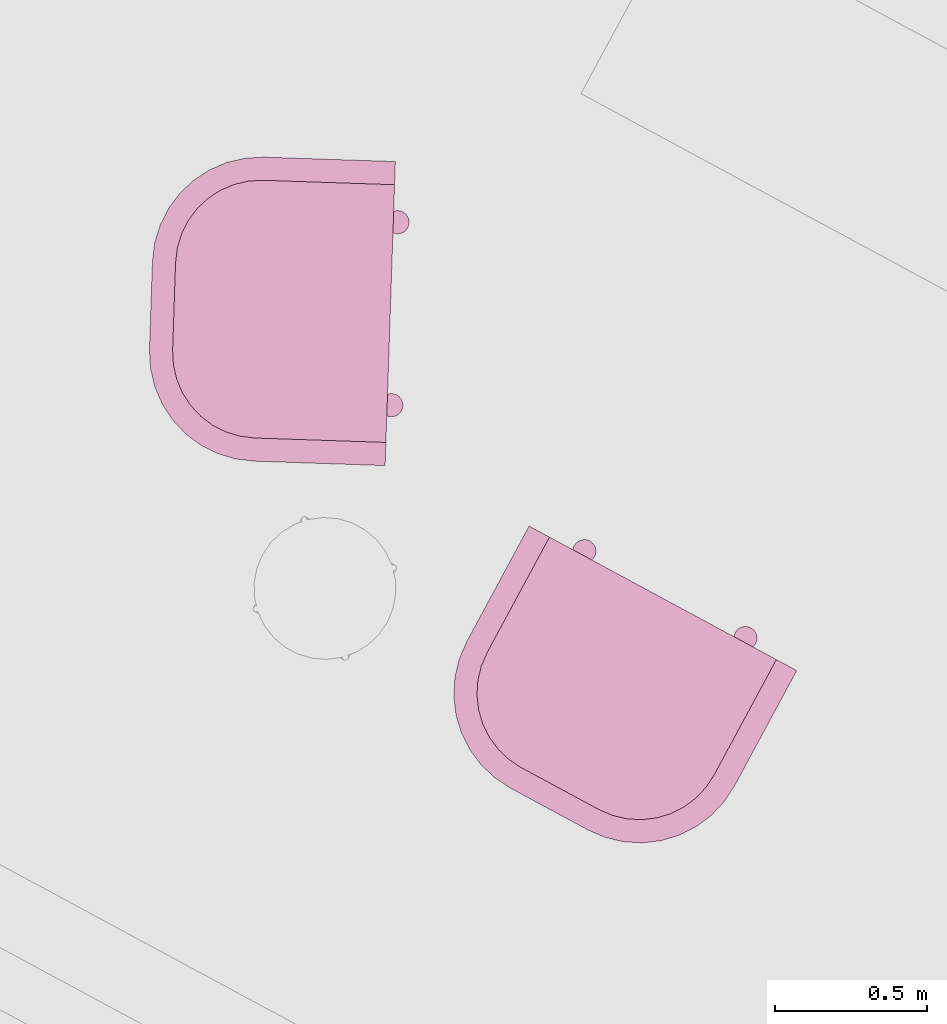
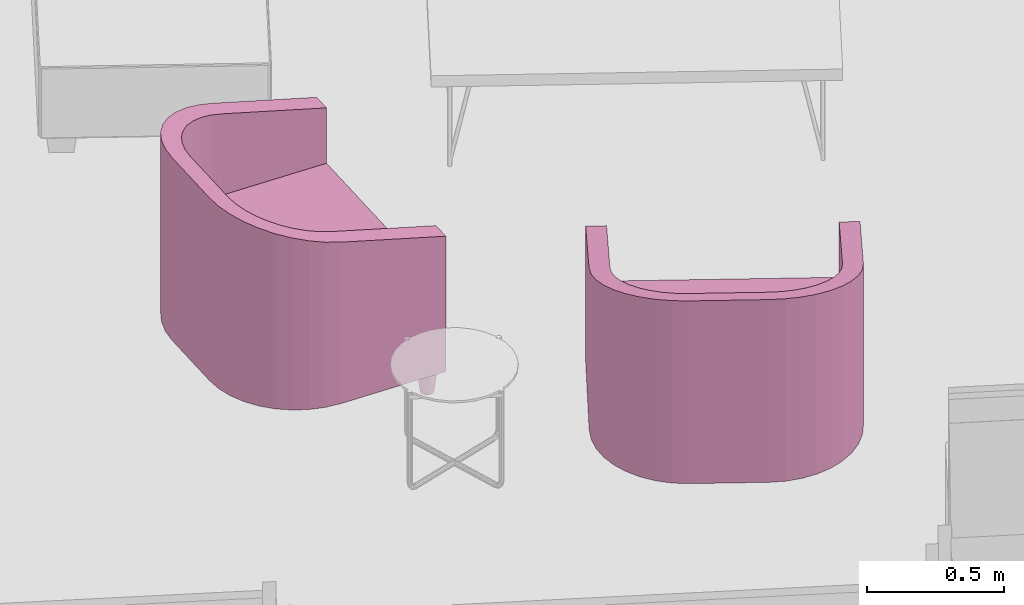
# One storey, part 27 of 52: 2 furnishings.
"""IFC2X3 building model written with IfcOpenShell, lengths in metres."""

import ifcopenshell
import ifcopenshell.guid

model = None  # the IFC model being written
_history = None  # IfcOwnerHistory: only IFC2X3 demands one
_inside = {}  # id of a spatial element -> (the spatial element, [elements in it])
_under = {}  # id of a project, library or spatial element -> (it, [spatial elements below it])
_declared = {}  # id of a project -> (the project, [libraries it declares])
_typed = {}  # id of a type object -> (the type object, [elements of that type])
_made_of = {}  # id of a material, layer set ... -> (it, [elements and type objects made of it])


def new_model(schema):
    """Start an empty IFC model of exactly this schema.

    Asked for "IFC4X3", IfcOpenShell would pick the latest addendum, in which some entities
    have other attributes; the version numbers below select the first issue.
    IFC2X3 requires an IfcOwnerHistory on every rooted entity: one is made here for all.
    """
    global model, _history
    if schema == "IFC4X3":
        model = ifcopenshell.file(schema_version=(4, 3, 0, 0))
    else:
        model = ifcopenshell.file(schema=schema)
    _inside.clear()
    _under.clear()
    _declared.clear()
    _typed.clear()
    _made_of.clear()
    _history = None
    if model.schema == "IFC2X3":
        org = make("IfcOrganization", Name="unknown")
        user = make(
            "IfcPersonAndOrganization",
            ThePerson=make("IfcPerson", FamilyName="unknown"),
            TheOrganization=org,
        )
        app = make(
            "IfcApplication",
            ApplicationDeveloper=org,
            Version="unknown",
            ApplicationFullName="unknown",
            ApplicationIdentifier="unknown",
        )
        _history = make(
            "IfcOwnerHistory",
            OwningUser=user,
            OwningApplication=app,
            ChangeAction="ADDED",
            CreationDate=0,
        )
    return model


def make(cls, **values):
    """One entity of the class cls with the attributes given. An attribute that is None is left unset."""
    return model.create_entity(
        cls, **{name: value for name, value in values.items() if value is not None}
    )


def entity(cls, *values):
    """Any entity or typed value of the class cls, its attributes in the order of the schema. None: left unset."""
    e = model.create_entity(cls)
    for i, value in enumerate(values):
        if value is not None:
            e[i] = value
    return e


def rooted(cls, **values):
    """An entity with a GlobalId (a new one), such as an element, a storey or a relation."""
    return make(cls, GlobalId=ifcopenshell.guid.new(), OwnerHistory=_history, **values)


def si_unit(unit_type, name, prefix=None):
    """IfcSIUnit, for example si_unit("LENGTHUNIT", "METRE", prefix="MILLI")."""
    return make("IfcSIUnit", UnitType=unit_type, Prefix=prefix, Name=name)


def converted_unit(unit_type, name, factor, base, dimensions=None, offset=None):
    """IfcConversionBasedUnit, such as the inch: factor (a typed value) times the base unit."""
    return make(
        "IfcConversionBasedUnit"
        if offset is None
        else "IfcConversionBasedUnitWithOffset",
        ConversionOffset=offset,
        Dimensions=None
        if dimensions is None
        else entity("IfcDimensionalExponents", *dimensions),
        UnitType=unit_type,
        Name=name,
        ConversionFactor=make(
            "IfcMeasureWithUnit", ValueComponent=factor, UnitComponent=base
        ),
    )


def derived_unit(unit_type, elements):
    """IfcDerivedUnit: a product of units, each with its exponent."""
    return make(
        "IfcDerivedUnit",
        Elements=[
            make("IfcDerivedUnitElement", Unit=unit, Exponent=power)
            for unit, power in elements
        ],
        UnitType=unit_type,
    )


def money_unit(currency):
    """IfcMonetaryUnit."""
    return make("IfcMonetaryUnit", Currency=currency)


def assignment(units):
    """IfcUnitAssignment: the units of a project."""
    return None if units is None else make("IfcUnitAssignment", Units=units)


def point(xyz):
    """IfcCartesianPoint."""
    return None if xyz is None else make("IfcCartesianPoint", Coordinates=xyz)


def direction(xyz):
    """IfcDirection."""
    return None if xyz is None else make("IfcDirection", DirectionRatios=xyz)


def frame(location, z_axis=None, x_axis=None):
    """IfcAxis2Placement3D, a coordinate frame: its origin and axes. An axis left out is left unset."""
    return make(
        "IfcAxis2Placement3D",
        Location=point(location),
        Axis=direction(z_axis),
        RefDirection=direction(x_axis),
    )


def origin_with_axes():
    """The frame at (0, 0, 0) with the z axis (0, 0, 1) and the x axis (1, 0, 0) written out."""
    return frame((0.0, 0.0, 0.0), z_axis=(0.0, 0.0, 1.0), x_axis=(1.0, 0.0, 0.0))


def place(relative_to, where):
    """IfcLocalPlacement: puts the frame where relative to a parent placement (None: the world)."""
    return make(
        "IfcLocalPlacement", PlacementRelTo=relative_to, RelativePlacement=where
    )


def context(
    kind, dimensions, precision=None, world=None, true_north=None, identifier=None
):
    """IfcGeometricRepresentationContext, for example the 3D "Model" context."""
    return make(
        "IfcGeometricRepresentationContext",
        ContextIdentifier=identifier,
        ContextType=kind,
        CoordinateSpaceDimension=dimensions,
        Precision=precision,
        WorldCoordinateSystem=world,
        TrueNorth=true_north,
    )


def subcontext(parent, identifier, kind, view, scale=None):
    """IfcGeometricRepresentationSubContext, for example "Body" below "Model"."""
    return make(
        "IfcGeometricRepresentationSubContext",
        ContextIdentifier=identifier,
        ContextType=kind,
        ParentContext=parent,
        TargetScale=scale,
        TargetView=view,
    )


def project(units=None, contexts=None):
    """IfcProject with its units and contexts."""
    return rooted(
        "IfcProject",
        Name="project",
        RepresentationContexts=contexts,
        UnitsInContext=assignment(units),
    )


def spatial(cls, under=None, at=None, **own):
    """A site, building, storey or space (cls), placed at a placement, below another one or the project."""
    s = rooted(cls, ObjectPlacement=at, **own)
    if under is not None:
        _under.setdefault(under.id(), (under, []))[1].append(s)
    return s


def faces_of(points, faces, orient=None, outer=None):
    """IfcFace entities. A face is a list of loops; a loop is a list of indices into points, from 0.

    orient and outer hold one flag for each loop. By default every Orientation is true, the
    first loop of a face is its IfcFaceOuterBound and the others are IfcFaceBound.
    """
    made = []
    for i, loops in enumerate(faces):
        bounds = []
        for j, loop in enumerate(loops):
            is_outer = j == 0 if outer is None else outer[i][j]
            bounds.append(
                make(
                    "IfcFaceOuterBound" if is_outer else "IfcFaceBound",
                    Bound=make("IfcPolyLoop", Polygon=[points[k] for k in loop]),
                    Orientation=True if orient is None else orient[i][j],
                )
            )
        made.append(make("IfcFace", Bounds=bounds))
    return made


def faceted_brep(points, faces, orient=None, outer=None, voids=None):
    """IfcFacetedBrep: a solid bounded by flat faces; with voids (closed shells), ...WithVoids."""
    shared = [point(p) for p in points]
    hull = make("IfcClosedShell", CfsFaces=faces_of(shared, faces, orient, outer))
    if voids is None:
        return make("IfcFacetedBrep", Outer=hull)
    return make(
        "IfcFacetedBrepWithVoids",
        Outer=hull,
        Voids=[
            make(cls, CfsFaces=faces_of(shared, fs, o, b)) for cls, fs, o, b in voids
        ],
    )


def shape(context_of_items, identifier, shape_type, items):
    """IfcShapeRepresentation: the items that make up one representation, for example the "Body"."""
    return make(
        "IfcShapeRepresentation",
        ContextOfItems=context_of_items,
        RepresentationIdentifier=identifier,
        RepresentationType=shape_type,
        Items=items,
    )


def source(mapping_origin, context_of_items, identifier, shape_type, items):
    """IfcRepresentationMap: a shape defined once, which mapped items show again and again."""
    return make(
        "IfcRepresentationMap",
        MappingOrigin=mapping_origin,
        MappedRepresentation=shape(context_of_items, identifier, shape_type, items),
    )


def transform(
    local_origin,
    x_axis=None,
    y_axis=None,
    z_axis=None,
    scale=None,
    scale2=None,
    scale3=None,
    uniform=True,
):
    """IfcCartesianTransformationOperator3D, or its non-uniform kind. x_axis, y_axis, z_axis: its Axis1, 2, 3."""
    if uniform:
        return make(
            "IfcCartesianTransformationOperator3D",
            Axis1=direction(x_axis),
            Axis2=direction(y_axis),
            LocalOrigin=point(local_origin),
            Scale=scale,
            Axis3=direction(z_axis),
        )
    return make(
        "IfcCartesianTransformationOperator3DnonUniform",
        Axis1=direction(x_axis),
        Axis2=direction(y_axis),
        LocalOrigin=point(local_origin),
        Scale=scale,
        Axis3=direction(z_axis),
        Scale2=scale2,
        Scale3=scale3,
    )


def mapped(mapping_source, mapping_target):
    """IfcMappedItem: shows the shape of a source again, moved by a transform."""
    return make(
        "IfcMappedItem", MappingSource=mapping_source, MappingTarget=mapping_target
    )


def made_of(thing, what):
    """Note that an element or type object is made of a material, layer set ...; save() writes the relation."""
    if what is not None:
        _made_of.setdefault(what.id(), (what, []))[1].append(thing)
    return thing


def type_object(cls, material=None, **own):
    """A type object (cls), such as IfcWallType, which elements share."""
    return made_of(rooted(cls, **own), material)


def element(
    cls,
    number,
    at=None,
    inside=None,
    cuts=None,
    type_object=None,
    material=None,
    context=None,
    identifier="Body",
    shape_type=None,
    held_by="IfcProductDefinitionShape",
    body=None,
    shapes=None,
    **own,
):
    """One element of the class cls, such as IfcWall. Its Tag is "e" and its number.

    at: its placement. inside: the storey or other place that contains it. cuts: it is an
    opening in that element (IfcRelVoidsElement). A single representation is given by context,
    identifier, shape_type and body (its items); several are given by shapes. held_by: the class
    of the entity that holds the representations. save() writes the other relations.
    """
    e = rooted(cls, Tag="e%d" % number, ObjectPlacement=at, **own)
    if body is not None:
        shapes = [shape(context, identifier, shape_type, body)]
    if shapes is not None:
        e.Representation = make(held_by, Representations=shapes)
    if inside is not None:
        _inside.setdefault(inside.id(), (inside, []))[1].append(e)
    if cuts is not None:
        rooted(
            "IfcRelVoidsElement", RelatingBuildingElement=cuts, RelatedOpeningElement=e
        )
    if type_object is not None:
        _typed.setdefault(type_object.id(), (type_object, []))[1].append(e)
    return made_of(e, material)


def aggregate(whole, parts):
    """IfcRelAggregates: a whole, such as a stair, and the parts it consists of."""
    return rooted("IfcRelAggregates", RelatingObject=whole, RelatedObjects=parts)


def save(model, path):
    """Write the relations noted so far, then the file.

    IfcRelAggregates (storeys below a building ...), IfcRelContainedInSpatialStructure (elements
    in a storey), IfcRelDefinesByType, IfcRelAssociatesMaterial and IfcRelDeclares: one each for
    every whole, place, type object, material and project.
    """
    for whole, parts in _under.values():
        aggregate(whole, parts)
    for where, things in _inside.values():
        rooted(
            "IfcRelContainedInSpatialStructure",
            RelatedElements=things,
            RelatingStructure=where,
        )
    for kind, things in _typed.values():
        rooted("IfcRelDefinesByType", RelatedObjects=things, RelatingType=kind)
    for what, things in _made_of.values():
        rooted("IfcRelAssociatesMaterial", RelatedObjects=things, RelatingMaterial=what)
    for by, libraries in _declared.values():
        rooted("IfcRelDeclares", RelatingContext=by, RelatedDefinitions=libraries)
    model.write(path)


model = new_model("IFC2X3")

# Units and contexts
model_context = context("Model", 3, precision=1e-05, world=origin_with_axes(), true_north=direction((0.0, 1.0)))
body_context = subcontext(model_context, "Body", "Model", "MODEL_VIEW")
ifc_project = project(units=[si_unit("LENGTHUNIT", "METRE"), si_unit("AREAUNIT", "SQUARE_METRE"), si_unit("VOLUMEUNIT", "CUBIC_METRE"), converted_unit("PLANEANGLEUNIT", "DEGREE", entity("IfcPlaneAngleMeasure", 0.0174532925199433), si_unit("PLANEANGLEUNIT", "RADIAN"), dimensions=[0, 0, 0, 0, 0, 0, 0]), money_unit("EUR"), converted_unit("TIMEUNIT", "Year", entity("IfcTimeMeasure", 31556926.0), si_unit("TIMEUNIT", "SECOND"), dimensions=[0, 0, 1, 0, 0, 0, 0]), si_unit("MASSUNIT", "GRAM", prefix="KILO"), si_unit("THERMODYNAMICTEMPERATUREUNIT", "DEGREE_CELSIUS"), si_unit("LUMINOUSINTENSITYUNIT", "LUMEN"), si_unit("ENERGYUNIT", "JOULE", prefix="MEGA"), derived_unit("THERMALCONDUCTANCEUNIT", [(si_unit("POWERUNIT", "WATT"), 1), (si_unit("LENGTHUNIT", "METRE"), -1), (si_unit("THERMODYNAMICTEMPERATUREUNIT", "KELVIN"), -1)]), derived_unit("SPECIFICHEATCAPACITYUNIT", [(si_unit("ENERGYUNIT", "JOULE"), 1), (si_unit("MASSUNIT", "GRAM", prefix="KILO"), -1), (si_unit("THERMODYNAMICTEMPERATUREUNIT", "KELVIN"), -1)]), derived_unit("MASSDENSITYUNIT", [(si_unit("MASSUNIT", "GRAM", prefix="KILO"), 1), (si_unit("VOLUMEUNIT", "CUBIC_METRE"), -1)])], contexts=[model_context])

# Site, building, storey
site_placement = place(None, frame((-3.949935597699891, 1.740105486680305, 0.0), z_axis=(0.0, 0.0, 1.0), x_axis=(0.8799804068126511, -0.475009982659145, 0.0)))
site = spatial("IfcSite", under=ifc_project, at=site_placement, Name="Gelände", CompositionType="ELEMENT")
building_placement = place(site_placement, origin_with_axes())
building = spatial("IfcBuilding", under=site, at=building_placement, Name="Gebäude", CompositionType="ELEMENT")
storey_placement = place(building_placement, origin_with_axes())
storey = spatial("IfcBuildingStorey", under=building, at=storey_placement, Name="Erdgeschoss", CompositionType="ELEMENT", Elevation=0.0)

# Furnishings
furnishing_element_type = type_object("IfcFurnishingElementType", Name="bucket chair (1)")
shared_shape = source(origin_with_axes(), body_context, "Body", "Brep", [
    faceted_brep([(-0.47421411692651, 0.73188933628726, 0.0), (-0.4867211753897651, 0.72968400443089, 0.1016), (-0.4873, 0.7363000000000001, 0.1016), (-0.4746, 0.7363000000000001, 0.0), (-0.473068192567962, 0.7276126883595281, 0.0), (-0.485002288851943, 0.7232690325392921, 0.1016), (-0.482195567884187, 0.71725, 0.1016), (-0.478386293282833, 0.711809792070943, 0.1016), (-0.4736902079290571, 0.707113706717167, 0.1016), (-0.4682499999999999, 0.7033044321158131, 0.1016), (-0.462230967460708, 0.700497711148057, 0.1016), (-0.45581599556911, 0.698778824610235, 0.1016), (-0.4492, 0.6982000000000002, 0.1016), (-0.44258400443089, 0.698778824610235, 0.1016), (-0.436169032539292, 0.700497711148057, 0.1016), (-0.43015, 0.703304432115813, 0.1016), (-0.4247097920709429, 0.707113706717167, 0.1016), (-0.420013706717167, 0.711809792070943, 0.1016), (-0.4162044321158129, 0.71725, 0.1016), (-0.4133977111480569, 0.7232690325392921, 0.1016), (-0.4116788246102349, 0.72968400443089, 0.1016), (-0.4111, 0.7363000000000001, 0.1016), (-0.4116788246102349, 0.7429159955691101, 0.1016), (-0.4133977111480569, 0.749330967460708, 0.1016), (-0.4162044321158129, 0.7553500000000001, 0.1016), (-0.420013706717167, 0.7607902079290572, 0.1016), (-0.4247097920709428, 0.7654862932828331, 0.1016), (-0.43015, 0.7692955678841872, 0.1016), (-0.436169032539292, 0.7721022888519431, 0.1016), (-0.44258400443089, 0.7738211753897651, 0.1016), (-0.4492, 0.7744000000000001, 0.1016), (-0.45581599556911, 0.7738211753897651, 0.1016), (-0.462230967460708, 0.7721022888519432, 0.1016), (-0.46825, 0.7692955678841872, 0.1016), (-0.4736902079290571, 0.7654862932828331, 0.1016), (-0.4783862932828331, 0.7607902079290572, 0.1016), (-0.4821955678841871, 0.7553500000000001, 0.1016), (-0.4850022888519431, 0.749330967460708, 0.1016), (-0.4867211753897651, 0.7429159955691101, 0.1016), (-0.4742141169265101, 0.7407106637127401, 0.0), (-0.4730681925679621, 0.744987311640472, 0.0), (-0.4711970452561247, 0.7490000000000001, 0.0), (-0.468657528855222, 0.7526268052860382, 0.0), (-0.4655268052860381, 0.7557575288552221, 0.0), (-0.4619, 0.7582970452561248, 0.0), (-0.457887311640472, 0.7601681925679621, 0.0), (-0.45361066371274, 0.7613141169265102, 0.0), (-0.4492, 0.7617, 0.0), (-0.44478933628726, 0.7613141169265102, 0.0), (-0.440512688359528, 0.7601681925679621, 0.0), (-0.4365, 0.7582970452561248, 0.0), (-0.4328731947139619, 0.7557575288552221, 0.0), (-0.429742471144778, 0.7526268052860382, 0.0), (-0.4272029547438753, 0.7490000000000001, 0.0), (-0.4253318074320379, 0.744987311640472, 0.0), (-0.4241858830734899, 0.7407106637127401, 0.0), (-0.4238, 0.7363000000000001, 0.0), (-0.4241858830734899, 0.73188933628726, 0.0), (-0.4253318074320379, 0.7276126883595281, 0.0), (-0.4272029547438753, 0.7236000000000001, 0.0), (-0.429742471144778, 0.719973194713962, 0.0), (-0.4328731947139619, 0.7168424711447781, 0.0), (-0.4365, 0.7143029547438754, 0.0), (-0.440512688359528, 0.712431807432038, 0.0), (-0.44478933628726, 0.71128588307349, 0.0), (-0.4492, 0.7109000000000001, 0.0), (-0.45361066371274, 0.71128588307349, 0.0), (-0.457887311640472, 0.712431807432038, 0.0), (-0.4619, 0.7143029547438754, 0.0), (-0.4655268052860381, 0.7168424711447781, 0.0), (-0.468657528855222, 0.719973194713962, 0.0), (-0.4711970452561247, 0.7236000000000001, 0.0)], [[[0, 1, 2, 3]], [[4, 5, 1, 0]], [[1, 5, 6, 7, 8, 9, 10, 11, 12, 13, 14, 15, 16, 17, 18, 19, 20, 21, 22, 23, 24, 25, 26, 27, 28, 29, 30, 31, 32, 33, 34, 35, 36, 37, 38, 2]], [[3, 2, 38, 39]], [[0, 3, 39, 40, 41, 42, 43, 44, 45, 46, 47, 48, 49, 50, 51, 52, 53, 54, 55, 56, 57, 58, 59, 60, 61, 62, 63, 64, 65, 66, 67, 68, 69, 70, 71, 4]], [[71, 6, 5, 4]], [[70, 7, 6, 71]], [[69, 8, 7, 70]], [[68, 9, 8, 69]], [[67, 10, 9, 68]], [[66, 11, 10, 67]], [[65, 12, 11, 66]], [[64, 13, 12, 65]], [[63, 14, 13, 64]], [[62, 15, 14, 63]], [[61, 16, 15, 62]], [[60, 17, 16, 61]], [[59, 18, 17, 60]], [[58, 19, 18, 59]], [[57, 20, 19, 58]], [[56, 21, 20, 57]], [[55, 22, 21, 56]], [[54, 23, 22, 55]], [[53, 24, 23, 54]], [[52, 25, 24, 53]], [[51, 26, 25, 52]], [[50, 27, 26, 51]], [[49, 28, 27, 50]], [[48, 29, 28, 49]], [[47, 30, 29, 48]], [[46, 31, 30, 47]], [[45, 32, 31, 46]], [[44, 33, 32, 45]], [[43, 34, 33, 44]], [[42, 35, 34, 43]], [[41, 36, 35, 42]], [[40, 37, 36, 41]], [[39, 38, 37, 40]]]),
    faceted_brep([(0.42418588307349, 0.73188933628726, 0.0), (0.4116788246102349, 0.72968400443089, 0.1016), (0.4111, 0.7363000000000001, 0.1016), (0.4238, 0.7363000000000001, 0.0), (0.425331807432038, 0.7276126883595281, 0.0), (0.413397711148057, 0.7232690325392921, 0.1016), (0.4162044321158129, 0.71725, 0.1016), (0.420013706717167, 0.711809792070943, 0.1016), (0.4247097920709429, 0.707113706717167, 0.1016), (0.43015, 0.7033044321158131, 0.1016), (0.436169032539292, 0.700497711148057, 0.1016), (0.44258400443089, 0.698778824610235, 0.1016), (0.4492, 0.6982000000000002, 0.1016), (0.45581599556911, 0.698778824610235, 0.1016), (0.462230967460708, 0.700497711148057, 0.1016), (0.4682499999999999, 0.703304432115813, 0.1016), (0.4736902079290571, 0.707113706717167, 0.1016), (0.478386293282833, 0.711809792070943, 0.1016), (0.482195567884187, 0.71725, 0.1016), (0.4850022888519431, 0.7232690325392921, 0.1016), (0.4867211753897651, 0.72968400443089, 0.1016), (0.4873, 0.7363000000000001, 0.1016), (0.4867211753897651, 0.7429159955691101, 0.1016), (0.4850022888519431, 0.749330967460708, 0.1016), (0.482195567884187, 0.7553500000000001, 0.1016), (0.478386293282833, 0.7607902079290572, 0.1016), (0.4736902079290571, 0.7654862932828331, 0.1016), (0.4682499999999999, 0.7692955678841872, 0.1016), (0.462230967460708, 0.7721022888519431, 0.1016), (0.45581599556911, 0.7738211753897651, 0.1016), (0.4492, 0.7744000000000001, 0.1016), (0.44258400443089, 0.7738211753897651, 0.1016), (0.436169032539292, 0.7721022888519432, 0.1016), (0.43015, 0.7692955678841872, 0.1016), (0.4247097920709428, 0.7654862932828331, 0.1016), (0.4200137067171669, 0.7607902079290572, 0.1016), (0.4162044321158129, 0.7553500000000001, 0.1016), (0.4133977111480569, 0.749330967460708, 0.1016), (0.4116788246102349, 0.7429159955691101, 0.1016), (0.4241858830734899, 0.7407106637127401, 0.0), (0.4253318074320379, 0.744987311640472, 0.0), (0.4272029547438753, 0.7490000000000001, 0.0), (0.4297424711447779, 0.7526268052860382, 0.0), (0.4328731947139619, 0.7557575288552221, 0.0), (0.4365, 0.7582970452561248, 0.0), (0.440512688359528, 0.7601681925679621, 0.0), (0.44478933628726, 0.7613141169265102, 0.0), (0.4492, 0.7617, 0.0), (0.45361066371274, 0.7613141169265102, 0.0), (0.457887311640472, 0.7601681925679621, 0.0), (0.4619, 0.7582970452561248, 0.0), (0.4655268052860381, 0.7557575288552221, 0.0), (0.468657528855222, 0.7526268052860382, 0.0), (0.4711970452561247, 0.7490000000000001, 0.0), (0.4730681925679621, 0.744987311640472, 0.0), (0.4742141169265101, 0.7407106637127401, 0.0), (0.4746, 0.7363000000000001, 0.0), (0.4742141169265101, 0.73188933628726, 0.0), (0.4730681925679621, 0.7276126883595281, 0.0), (0.4711970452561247, 0.7236000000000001, 0.0), (0.468657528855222, 0.719973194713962, 0.0), (0.4655268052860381, 0.7168424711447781, 0.0), (0.4619, 0.7143029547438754, 0.0), (0.457887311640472, 0.712431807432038, 0.0), (0.45361066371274, 0.71128588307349, 0.0), (0.4492, 0.7109000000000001, 0.0), (0.44478933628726, 0.71128588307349, 0.0), (0.440512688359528, 0.712431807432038, 0.0), (0.4365, 0.7143029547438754, 0.0), (0.4328731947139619, 0.7168424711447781, 0.0), (0.429742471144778, 0.719973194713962, 0.0), (0.4272029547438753, 0.7236000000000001, 0.0)], [[[0, 1, 2, 3]], [[4, 5, 1, 0]], [[1, 5, 6, 7, 8, 9, 10, 11, 12, 13, 14, 15, 16, 17, 18, 19, 20, 21, 22, 23, 24, 25, 26, 27, 28, 29, 30, 31, 32, 33, 34, 35, 36, 37, 38, 2]], [[3, 2, 38, 39]], [[0, 3, 39, 40, 41, 42, 43, 44, 45, 46, 47, 48, 49, 50, 51, 52, 53, 54, 55, 56, 57, 58, 59, 60, 61, 62, 63, 64, 65, 66, 67, 68, 69, 70, 71, 4]], [[71, 6, 5, 4]], [[70, 7, 6, 71]], [[69, 8, 7, 70]], [[68, 9, 8, 69]], [[67, 10, 9, 68]], [[66, 11, 10, 67]], [[65, 12, 11, 66]], [[64, 13, 12, 65]], [[63, 14, 13, 64]], [[62, 15, 14, 63]], [[61, 16, 15, 62]], [[60, 17, 16, 61]], [[59, 18, 17, 60]], [[58, 19, 18, 59]], [[57, 20, 19, 58]], [[56, 21, 20, 57]], [[55, 22, 21, 56]], [[54, 23, 22, 55]], [[53, 24, 23, 54]], [[52, 25, 24, 53]], [[51, 26, 25, 52]], [[50, 27, 26, 51]], [[49, 28, 27, 50]], [[48, 29, 28, 49]], [[47, 30, 29, 48]], [[46, 31, 30, 47]], [[45, 32, 31, 46]], [[44, 33, 32, 45]], [[43, 34, 33, 44]], [[42, 35, 34, 43]], [[41, 36, 35, 42]], [[40, 37, 36, 41]], [[39, 38, 37, 40]]]),
    faceted_brep([(-0.3258141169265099, 0.7963893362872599, 0.0), (-0.338321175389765, 0.7941840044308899, 0.1016), (-0.3388999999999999, 0.8008, 0.1016), (-0.3261999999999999, 0.8008, 0.0), (-0.3246681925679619, 0.792112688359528, 0.0), (-0.3366022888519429, 0.787769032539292, 0.1016), (-0.333795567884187, 0.78175, 0.1016), (-0.3299862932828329, 0.7763097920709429, 0.1016), (-0.325290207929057, 0.7716137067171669, 0.1016), (-0.3198499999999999, 0.767804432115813, 0.1016), (-0.3138309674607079, 0.7649977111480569, 0.1016), (-0.3074159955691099, 0.7632788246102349, 0.1016), (-0.3007999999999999, 0.7627, 0.1016), (-0.2941840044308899, 0.7632788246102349, 0.1016), (-0.2877690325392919, 0.7649977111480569, 0.1016), (-0.2817499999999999, 0.7678044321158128, 0.1016), (-0.2763097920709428, 0.7716137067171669, 0.1016), (-0.2716137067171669, 0.7763097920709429, 0.1016), (-0.2678044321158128, 0.78175, 0.1016), (-0.2649977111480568, 0.787769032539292, 0.1016), (-0.2632788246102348, 0.7941840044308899, 0.1016), (-0.2626999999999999, 0.8008, 0.1016), (-0.2632788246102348, 0.80741599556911, 0.1016), (-0.2649977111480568, 0.8138309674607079, 0.1016), (-0.2678044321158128, 0.81985, 0.1016), (-0.2716137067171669, 0.825290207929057, 0.1016), (-0.2763097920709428, 0.829986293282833, 0.1016), (-0.2817499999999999, 0.8337955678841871, 0.1016), (-0.2877690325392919, 0.8366022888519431, 0.1016), (-0.2941840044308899, 0.838321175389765, 0.1016), (-0.3007999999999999, 0.8389, 0.1016), (-0.3074159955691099, 0.838321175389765, 0.1016), (-0.3138309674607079, 0.8366022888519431, 0.1016), (-0.3198499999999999, 0.8337955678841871, 0.1016), (-0.3252902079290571, 0.829986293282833, 0.1016), (-0.329986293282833, 0.825290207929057, 0.1016), (-0.333795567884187, 0.81985, 0.1016), (-0.336602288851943, 0.8138309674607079, 0.1016), (-0.338321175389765, 0.80741599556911, 0.1016), (-0.32581411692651, 0.80521066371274, 0.0), (-0.324668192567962, 0.8094873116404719, 0.0), (-0.3227970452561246, 0.8135, 0.0), (-0.320257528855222, 0.8171268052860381, 0.0), (-0.317126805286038, 0.820257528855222, 0.0), (-0.3134999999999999, 0.8227970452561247, 0.0), (-0.3094873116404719, 0.824668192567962, 0.0), (-0.3052106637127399, 0.8258141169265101, 0.0), (-0.3007999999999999, 0.8261999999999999, 0.0), (-0.2963893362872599, 0.8258141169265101, 0.0), (-0.2921126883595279, 0.824668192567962, 0.0), (-0.2880999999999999, 0.8227970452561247, 0.0), (-0.2844731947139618, 0.820257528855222, 0.0), (-0.2813424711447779, 0.8171268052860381, 0.0), (-0.2788029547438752, 0.8135, 0.0), (-0.2769318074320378, 0.8094873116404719, 0.0), (-0.2757858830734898, 0.80521066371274, 0.0), (-0.2753999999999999, 0.8008, 0.0), (-0.2757858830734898, 0.7963893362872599, 0.0), (-0.2769318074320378, 0.792112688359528, 0.0), (-0.2788029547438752, 0.7881, 0.0), (-0.2813424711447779, 0.7844731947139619, 0.0), (-0.2844731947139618, 0.781342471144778, 0.0), (-0.2880999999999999, 0.7788029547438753, 0.0), (-0.2921126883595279, 0.7769318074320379, 0.0), (-0.2963893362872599, 0.77578588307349, 0.0), (-0.3007999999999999, 0.7754, 0.0), (-0.3052106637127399, 0.77578588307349, 0.0), (-0.3094873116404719, 0.7769318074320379, 0.0), (-0.3134999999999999, 0.7788029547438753, 0.0), (-0.317126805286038, 0.781342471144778, 0.0), (-0.3202575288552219, 0.7844731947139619, 0.0), (-0.3227970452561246, 0.7881, 0.0)], [[[0, 1, 2, 3]], [[4, 5, 1, 0]], [[1, 5, 6, 7, 8, 9, 10, 11, 12, 13, 14, 15, 16, 17, 18, 19, 20, 21, 22, 23, 24, 25, 26, 27, 28, 29, 30, 31, 32, 33, 34, 35, 36, 37, 38, 2]], [[3, 2, 38, 39]], [[0, 3, 39, 40, 41, 42, 43, 44, 45, 46, 47, 48, 49, 50, 51, 52, 53, 54, 55, 56, 57, 58, 59, 60, 61, 62, 63, 64, 65, 66, 67, 68, 69, 70, 71, 4]], [[71, 6, 5, 4]], [[70, 7, 6, 71]], [[69, 8, 7, 70]], [[68, 9, 8, 69]], [[67, 10, 9, 68]], [[66, 11, 10, 67]], [[65, 12, 11, 66]], [[64, 13, 12, 65]], [[63, 14, 13, 64]], [[62, 15, 14, 63]], [[61, 16, 15, 62]], [[60, 17, 16, 61]], [[59, 18, 17, 60]], [[58, 19, 18, 59]], [[57, 20, 19, 58]], [[56, 21, 20, 57]], [[55, 22, 21, 56]], [[54, 23, 22, 55]], [[53, 24, 23, 54]], [[52, 25, 24, 53]], [[51, 26, 25, 52]], [[50, 27, 26, 51]], [[49, 28, 27, 50]], [[48, 29, 28, 49]], [[47, 30, 29, 48]], [[46, 31, 30, 47]], [[45, 32, 31, 46]], [[44, 33, 32, 45]], [[43, 34, 33, 44]], [[42, 35, 34, 43]], [[41, 36, 35, 42]], [[40, 37, 36, 41]], [[39, 38, 37, 40]]]),
    faceted_brep([(0.2757858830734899, 0.7963893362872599, 0.0), (0.2632788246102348, 0.7941840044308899, 0.1016), (0.2626999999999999, 0.8008, 0.1016), (0.2753999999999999, 0.8008, 0.0), (0.2769318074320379, 0.792112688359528, 0.0), (0.2649977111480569, 0.787769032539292, 0.1016), (0.2678044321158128, 0.78175, 0.1016), (0.2716137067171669, 0.7763097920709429, 0.1016), (0.2763097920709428, 0.7716137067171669, 0.1016), (0.2817499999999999, 0.767804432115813, 0.1016), (0.2877690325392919, 0.7649977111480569, 0.1016), (0.2941840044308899, 0.7632788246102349, 0.1016), (0.3007999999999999, 0.7627, 0.1016), (0.3074159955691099, 0.7632788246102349, 0.1016), (0.3138309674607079, 0.7649977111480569, 0.1016), (0.3198499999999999, 0.7678044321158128, 0.1016), (0.325290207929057, 0.7716137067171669, 0.1016), (0.3299862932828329, 0.7763097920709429, 0.1016), (0.333795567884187, 0.78175, 0.1016), (0.336602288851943, 0.787769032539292, 0.1016), (0.338321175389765, 0.7941840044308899, 0.1016), (0.3388999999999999, 0.8008, 0.1016), (0.338321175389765, 0.80741599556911, 0.1016), (0.336602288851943, 0.8138309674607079, 0.1016), (0.333795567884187, 0.81985, 0.1016), (0.3299862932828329, 0.825290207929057, 0.1016), (0.3252902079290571, 0.829986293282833, 0.1016), (0.3198499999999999, 0.8337955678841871, 0.1016), (0.3138309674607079, 0.8366022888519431, 0.1016), (0.3074159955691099, 0.838321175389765, 0.1016), (0.3007999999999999, 0.8389, 0.1016), (0.2941840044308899, 0.838321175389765, 0.1016), (0.2877690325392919, 0.8366022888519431, 0.1016), (0.2817499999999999, 0.8337955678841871, 0.1016), (0.2763097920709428, 0.829986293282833, 0.1016), (0.2716137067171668, 0.825290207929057, 0.1016), (0.2678044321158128, 0.81985, 0.1016), (0.2649977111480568, 0.8138309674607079, 0.1016), (0.2632788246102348, 0.80741599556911, 0.1016), (0.2757858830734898, 0.80521066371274, 0.0), (0.2769318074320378, 0.8094873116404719, 0.0), (0.2788029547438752, 0.8135, 0.0), (0.2813424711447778, 0.8171268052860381, 0.0), (0.2844731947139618, 0.820257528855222, 0.0), (0.2880999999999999, 0.8227970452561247, 0.0), (0.2921126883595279, 0.824668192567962, 0.0), (0.2963893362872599, 0.8258141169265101, 0.0), (0.3007999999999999, 0.8261999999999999, 0.0), (0.3052106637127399, 0.8258141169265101, 0.0), (0.3094873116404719, 0.824668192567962, 0.0), (0.3134999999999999, 0.8227970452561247, 0.0), (0.317126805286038, 0.820257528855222, 0.0), (0.3202575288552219, 0.8171268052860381, 0.0), (0.3227970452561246, 0.8135, 0.0), (0.324668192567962, 0.8094873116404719, 0.0), (0.32581411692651, 0.80521066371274, 0.0), (0.3261999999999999, 0.8008, 0.0), (0.32581411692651, 0.7963893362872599, 0.0), (0.324668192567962, 0.792112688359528, 0.0), (0.3227970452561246, 0.7881, 0.0), (0.3202575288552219, 0.7844731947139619, 0.0), (0.317126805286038, 0.781342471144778, 0.0), (0.3134999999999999, 0.7788029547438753, 0.0), (0.3094873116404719, 0.7769318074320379, 0.0), (0.3052106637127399, 0.77578588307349, 0.0), (0.3007999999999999, 0.7754, 0.0), (0.2963893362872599, 0.77578588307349, 0.0), (0.2921126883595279, 0.7769318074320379, 0.0), (0.2880999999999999, 0.7788029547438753, 0.0), (0.2844731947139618, 0.781342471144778, 0.0), (0.2813424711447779, 0.7844731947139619, 0.0), (0.2788029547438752, 0.7881, 0.0)], [[[0, 1, 2, 3]], [[4, 5, 1, 0]], [[1, 5, 6, 7, 8, 9, 10, 11, 12, 13, 14, 15, 16, 17, 18, 19, 20, 21, 22, 23, 24, 25, 26, 27, 28, 29, 30, 31, 32, 33, 34, 35, 36, 37, 38, 2]], [[3, 2, 38, 39]], [[0, 3, 39, 40, 41, 42, 43, 44, 45, 46, 47, 48, 49, 50, 51, 52, 53, 54, 55, 56, 57, 58, 59, 60, 61, 62, 63, 64, 65, 66, 67, 68, 69, 70, 71, 4]], [[71, 6, 5, 4]], [[70, 7, 6, 71]], [[69, 8, 7, 70]], [[68, 9, 8, 69]], [[67, 10, 9, 68]], [[66, 11, 10, 67]], [[65, 12, 11, 66]], [[64, 13, 12, 65]], [[63, 14, 13, 64]], [[62, 15, 14, 63]], [[61, 16, 15, 62]], [[60, 17, 16, 61]], [[59, 18, 17, 60]], [[58, 19, 18, 59]], [[57, 20, 19, 58]], [[56, 21, 20, 57]], [[55, 22, 21, 56]], [[54, 23, 22, 55]], [[53, 24, 23, 54]], [[52, 25, 24, 53]], [[51, 26, 25, 52]], [[50, 27, 26, 51]], [[49, 28, 27, 50]], [[48, 29, 28, 49]], [[47, 30, 29, 48]], [[46, 31, 30, 47]], [[45, 32, 31, 46]], [[44, 33, 32, 45]], [[43, 34, 33, 44]], [[42, 35, 34, 43]], [[41, 36, 35, 42]], [[40, 37, 36, 41]], [[39, 38, 37, 40]]]),
    faceted_brep([(0.5, 0.7871, 0.1016), (0.5, 0.7871, 0.7034971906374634), (0.5, 0.3556, 0.8191172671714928), (0.5, 0.3556, 0.1016), (0.4238, 0.7871, 0.1016), (0.4238, 0.7871, 0.7034971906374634), (0.4238, 0.3556000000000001, 0.8191172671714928), (0.4195552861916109, 0.3070826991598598, 0.8321174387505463), (0.4069501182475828, 0.2600395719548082, 0.8447226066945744), (0.3863674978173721, 0.2159000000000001, 0.8565497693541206), (0.3584328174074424, 0.176005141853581, 0.8672395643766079), (0.323994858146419, 0.1415671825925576, 0.8764671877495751), (0.2841, 0.1136325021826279, 0.8839522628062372), (0.2399604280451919, 0.09304988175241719, 0.8894673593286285), (0.1929173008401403, 0.08044471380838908, 0.8928449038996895), (0.1444, 0.0762, 0.8939822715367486), (-0.1444000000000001, 0.07620000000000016, 0.8939822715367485), (-0.1929173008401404, 0.08044471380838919, 0.8928449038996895), (-0.2399604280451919, 0.0930498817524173, 0.8894673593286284), (-0.2841, 0.1136325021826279, 0.8839522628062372), (-0.3239948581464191, 0.1415671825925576, 0.8764671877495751), (-0.3584328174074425, 0.176005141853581, 0.8672395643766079), (-0.3863674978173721, 0.2159000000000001, 0.8565497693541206), (-0.4069501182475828, 0.2600395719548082, 0.8447226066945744), (-0.4195552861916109, 0.3070826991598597, 0.8321174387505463), (-0.4238, 0.3556, 0.8191172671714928), (-0.4238, 0.7871, 0.7034971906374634), (-0.5, 0.7871, 0.7034971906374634), (-0.4999999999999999, 0.3555999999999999, 0.8191172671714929), (-0.494597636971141, 0.2938507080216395, 0.8356629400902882), (-0.4785546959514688, 0.2339776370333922, 0.8517058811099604), (-0.4523586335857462, 0.1778, 0.8667586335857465), (-0.4168054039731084, 0.1270247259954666, 0.8803638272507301), (-0.3729752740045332, 0.08319459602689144, 0.8921080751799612), (-0.3221999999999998, 0.04764136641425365, 0.9016345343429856), (-0.2660223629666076, 0.02144530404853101, 0.9086537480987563), (-0.2061492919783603, 0.005402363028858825, 0.9129524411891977), (-0.1444, 0.0, 0.9144000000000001), (0.0, 0.0, 0.9144000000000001), (0.1444000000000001, 0.0, 0.9144000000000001), (0.2061492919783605, 0.005402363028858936, 0.9129524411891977), (0.2660223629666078, 0.02144530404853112, 0.9086537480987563), (0.3222, 0.04764136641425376, 0.9016345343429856), (0.3729752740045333, 0.08319459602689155, 0.892108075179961), (0.4168054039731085, 0.1270247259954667, 0.8803638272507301), (0.4523586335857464, 0.1778000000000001, 0.8667586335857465), (0.4785546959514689, 0.2339776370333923, 0.8517058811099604), (0.4945976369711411, 0.2938507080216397, 0.8356629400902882), (0.4945976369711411, 0.2938507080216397, 0.1016), (0.4785546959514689, 0.2339776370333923, 0.1016), (0.4523586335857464, 0.1778000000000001, 0.1016), (0.4168054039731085, 0.1270247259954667, 0.1016), (0.3729752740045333, 0.08319459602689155, 0.1016), (0.3222, 0.04764136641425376, 0.1016), (0.2660223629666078, 0.02144530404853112, 0.1016), (0.2061492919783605, 0.005402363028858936, 0.1016), (0.1444000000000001, 0.0, 0.1016), (0.0, 0.0, 0.1016), (-0.1444, 0.0, 0.1016), (-0.2061492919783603, 0.005402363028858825, 0.1016), (-0.2660223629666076, 0.02144530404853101, 0.1016), (-0.3221999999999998, 0.04764136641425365, 0.1016), (-0.3729752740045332, 0.08319459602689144, 0.1016), (-0.4168054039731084, 0.1270247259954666, 0.1016), (-0.4523586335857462, 0.1778, 0.1016), (-0.4785546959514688, 0.2339776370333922, 0.1016), (-0.494597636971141, 0.2938507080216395, 0.1016), (-0.4999999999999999, 0.3555999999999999, 0.1016), (-0.5, 0.7871, 0.1016), (-0.4238, 0.7871, 0.1016), (-0.4238, 0.3556, 0.1016), (-0.4195552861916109, 0.3070826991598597, 0.1016), (-0.4069501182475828, 0.2600395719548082, 0.1016), (-0.3863674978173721, 0.2159000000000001, 0.1016), (-0.3584328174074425, 0.176005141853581, 0.1016), (-0.3239948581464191, 0.1415671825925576, 0.1016), (-0.2841, 0.1136325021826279, 0.1016), (-0.2399604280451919, 0.0930498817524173, 0.1016), (-0.1929173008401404, 0.08044471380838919, 0.1016), (-0.1444000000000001, 0.07620000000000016, 0.1016), (0.1444, 0.0762, 0.1016), (0.1929173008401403, 0.08044471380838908, 0.1016), (0.2399604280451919, 0.09304988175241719, 0.1016), (0.2841, 0.1136325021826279, 0.1016), (0.323994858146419, 0.1415671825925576, 0.1016), (0.3584328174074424, 0.176005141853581, 0.1016), (0.3863674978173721, 0.2159000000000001, 0.1016), (0.4069501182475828, 0.2600395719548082, 0.1016), (0.4195552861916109, 0.3070826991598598, 0.1016), (0.4238, 0.3556000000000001, 0.1016)], [[[0, 1, 2, 3]], [[4, 5, 1, 0]], [[1, 5, 6, 7, 8, 9, 10, 11, 12, 13, 14, 15, 16, 17, 18, 19, 20, 21, 22, 23, 24, 25, 26, 27, 28, 29, 30, 31, 32, 33, 34, 35, 36, 37, 38, 39, 40, 41, 42, 43, 44, 45, 46, 47, 2]], [[3, 2, 47, 48]], [[0, 3, 48, 49, 50, 51, 52, 53, 54, 55, 56, 57, 58, 59, 60, 61, 62, 63, 64, 65, 66, 67, 68, 69, 70, 71, 72, 73, 74, 75, 76, 77, 78, 79, 80, 81, 82, 83, 84, 85, 86, 87, 88, 89, 4]], [[89, 6, 5, 4]], [[88, 7, 6, 89]], [[87, 8, 7, 88]], [[86, 9, 8, 87]], [[85, 10, 9, 86]], [[84, 11, 10, 85]], [[83, 12, 11, 84]], [[82, 13, 12, 83]], [[81, 14, 13, 82]], [[80, 15, 14, 81]], [[79, 16, 15, 80]], [[78, 17, 16, 79]], [[77, 18, 17, 78]], [[76, 19, 18, 77]], [[75, 20, 19, 76]], [[74, 21, 20, 75]], [[73, 22, 21, 74]], [[72, 23, 22, 73]], [[71, 24, 23, 72]], [[70, 25, 24, 71]], [[69, 26, 25, 70]], [[68, 27, 26, 69]], [[67, 28, 27, 68]], [[66, 29, 28, 67]], [[65, 30, 29, 66]], [[64, 31, 30, 65]], [[63, 32, 31, 64]], [[62, 33, 32, 63]], [[61, 34, 33, 62]], [[60, 35, 34, 61]], [[59, 36, 35, 60]], [[58, 37, 36, 59]], [[57, 38, 37, 58]], [[56, 39, 38, 57]], [[55, 40, 39, 56]], [[54, 41, 40, 55]], [[53, 42, 41, 54]], [[52, 43, 42, 53]], [[51, 44, 43, 52]], [[50, 45, 44, 51]], [[49, 46, 45, 50]], [[48, 47, 46, 49]]]),
    faceted_brep([(0.4238, 0.7871, 0.1016), (0.4238, 0.7871, 0.4572000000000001), (0.4238, 0.3556000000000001, 0.4572000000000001), (0.4238, 0.3556000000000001, 0.1016), (-0.4238, 0.7871, 0.1016), (-0.4238, 0.7871, 0.4572000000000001), (-0.4238, 0.3556, 0.4572000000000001), (-0.4195552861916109, 0.3070826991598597, 0.4572000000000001), (-0.4069501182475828, 0.2600395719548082, 0.4572000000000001), (-0.3863674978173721, 0.2159000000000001, 0.4572000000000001), (-0.3584328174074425, 0.176005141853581, 0.4572000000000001), (-0.3239948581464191, 0.1415671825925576, 0.4572000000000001), (-0.2841, 0.1136325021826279, 0.4572000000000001), (-0.2399604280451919, 0.0930498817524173, 0.4572000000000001), (-0.1929173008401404, 0.08044471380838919, 0.4572000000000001), (-0.1444000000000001, 0.07620000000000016, 0.4572000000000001), (0.1444, 0.0762, 0.4572000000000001), (0.1929173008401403, 0.08044471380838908, 0.4572000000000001), (0.2399604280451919, 0.09304988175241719, 0.4572000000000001), (0.2841, 0.1136325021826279, 0.4572000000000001), (0.323994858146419, 0.1415671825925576, 0.4572000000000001), (0.3584328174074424, 0.176005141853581, 0.4572000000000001), (0.3863674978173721, 0.2159000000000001, 0.4572000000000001), (0.4069501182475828, 0.2600395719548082, 0.4572000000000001), (0.4195552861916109, 0.3070826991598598, 0.4572000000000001), (0.4195552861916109, 0.3070826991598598, 0.1016), (0.4069501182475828, 0.2600395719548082, 0.1016), (0.3863674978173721, 0.2159000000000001, 0.1016), (0.3584328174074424, 0.176005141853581, 0.1016), (0.323994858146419, 0.1415671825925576, 0.1016), (0.2841, 0.1136325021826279, 0.1016), (0.2399604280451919, 0.09304988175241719, 0.1016), (0.1929173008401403, 0.08044471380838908, 0.1016), (0.1444, 0.0762, 0.1016), (-0.1444000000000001, 0.07620000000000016, 0.1016), (-0.1929173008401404, 0.08044471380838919, 0.1016), (-0.2399604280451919, 0.0930498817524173, 0.1016), (-0.2841, 0.1136325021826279, 0.1016), (-0.3239948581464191, 0.1415671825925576, 0.1016), (-0.3584328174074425, 0.176005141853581, 0.1016), (-0.3863674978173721, 0.2159000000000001, 0.1016), (-0.4069501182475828, 0.2600395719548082, 0.1016), (-0.4195552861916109, 0.3070826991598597, 0.1016), (-0.4238, 0.3556, 0.1016)], [[[0, 1, 2, 3]], [[4, 5, 1, 0]], [[1, 5, 6, 7, 8, 9, 10, 11, 12, 13, 14, 15, 16, 17, 18, 19, 20, 21, 22, 23, 24, 2]], [[3, 2, 24, 25]], [[0, 3, 25, 26, 27, 28, 29, 30, 31, 32, 33, 34, 35, 36, 37, 38, 39, 40, 41, 42, 43, 4]], [[43, 6, 5, 4]], [[42, 7, 6, 43]], [[41, 8, 7, 42]], [[40, 9, 8, 41]], [[39, 10, 9, 40]], [[38, 11, 10, 39]], [[37, 12, 11, 38]], [[36, 13, 12, 37]], [[35, 14, 13, 36]], [[34, 15, 14, 35]], [[33, 16, 15, 34]], [[32, 17, 16, 33]], [[31, 18, 17, 32]], [[30, 19, 18, 31]], [[29, 20, 19, 30]], [[28, 21, 20, 29]], [[27, 22, 21, 28]], [[26, 23, 22, 27]], [[25, 24, 23, 26]]]),
])
for number, where, z_axis, x_axis, name in (
    (1, (6.366065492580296, 2.318013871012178, 0.0), (0.0, 0.0, 1.0), (0.4451274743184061, -0.8954672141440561, 0.0), "Objekt-0069"),
    (2, (8.304386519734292, 1.483279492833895, 0.0), (0.0, 0.0, 1.0), (1.0, 0.0, 0.0), "Objekt-0069"),
):
    element("IfcFurnishingElement", number, at=place(storey_placement, frame(where, z_axis=z_axis, x_axis=x_axis)), inside=storey, type_object=furnishing_element_type, Name=name, context=body_context, shape_type="MappedRepresentation", body=[
        mapped(shared_shape, transform((0.0, 0.0, 0.0))),
    ])

save(model, "model.ifc")
